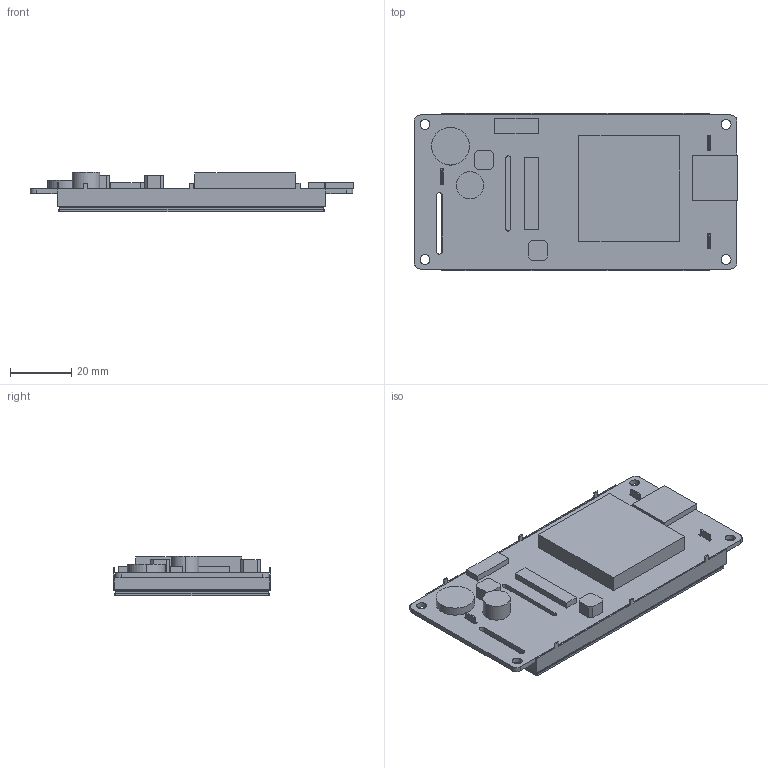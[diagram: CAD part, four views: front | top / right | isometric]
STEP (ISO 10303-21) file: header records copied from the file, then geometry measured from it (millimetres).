
FILE_DESCRIPTION (( 'STEP AP214' ), '1' );
FILE_NAME ('3d-dmg80480t035-01wtc.STEP', '2023-07-19T02:05:34', ( '' ), ( 'Microsoft' ), 'SwSTEP 2.0', 'SolidWorks 2017', '' );
FILE_SCHEMA (( 'AUTOMOTIVE_DESIGN' ));
Length unit declared in the file: millimetre
Products named in the file (1): 3d-dmg80480t035-01wtc
Bounding box: 105.3 x 51.26 x 12.97 mm (x, y, z)
Volume: 33031.6 mm3; surface area: 33131.4 mm2
Topology: 1 solids, 1 shells, 214 faces, 606 edges, 396 vertices
Faces by surface type: plane 186, cylinder 28
Entity records: 8655 total; most frequent: CARTESIAN_POINT 1217, ORIENTED_EDGE 1212, DIRECTION 1094, EDGE_CURVE 606, VECTOR 548, LINE 548, VERTEX_POINT 396, AXIS2_PLACEMENT_3D 273
